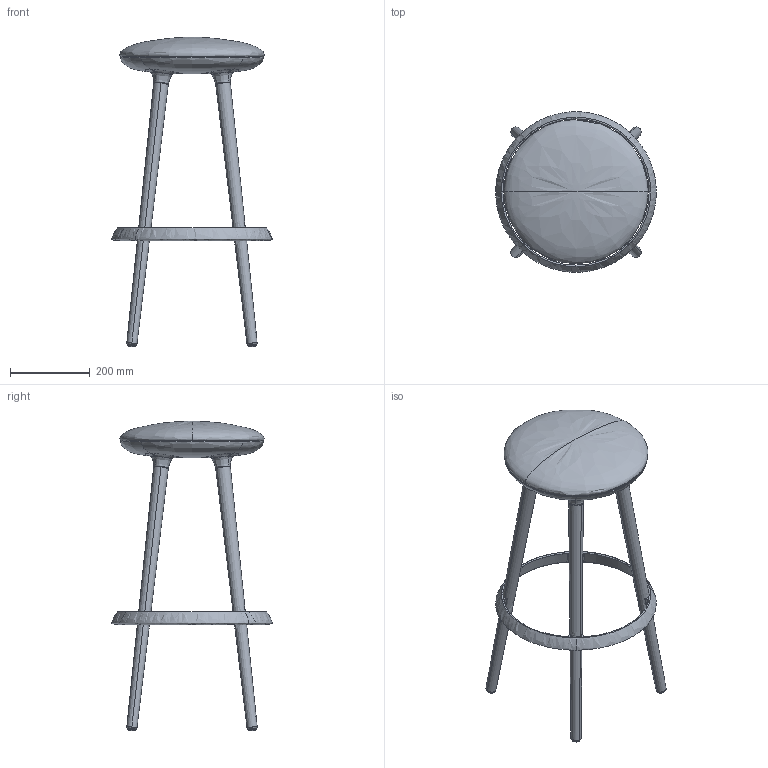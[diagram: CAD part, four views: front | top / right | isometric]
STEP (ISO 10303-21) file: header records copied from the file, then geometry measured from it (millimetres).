
FILE_DESCRIPTION (( 'STEP AP214' ), '1' );
FILE_NAME ('KIT320_Sgabello-Joy_Alto_Sempl_Render.STEP', '2022-04-27T14:59:06', ( '' ), ( '' ), 'SwSTEP 2.0', 'SolidWorks 2017', '' );
FILE_SCHEMA (( 'AUTOMOTIVE_DESIGN' ));
Length unit declared in the file: millimetre
Products named in the file (39): Vite_TCEI_M6x30_2; Sottotesta-Vite_2; Vite_TCEI_M6x30_3; Vite_TCEI_M6x30; Piedino_3; Sottotesta-Vite; Piedino_2; Vite_TCEI_M6x30_1; Sottotesta-Vite_1; Gamba_26-11-21_3; Sottotesta-Vite_3; Piedino_1; Gamba_26-11-21; Poggiapiedi; Gamba_26-11-21_2; Pelle_Tessuto_17-1-22; KIT320_Sgabello-Joy_Alto_Sempl_Render; Elemento_Portante; Piedino; Gamba_26-11-21_1
Assembly tree (19 placements, depth 2):
  Sottotesta-Vite_2
  Vite_TCEI_M6x30
  Piedino_3
  Sottotesta-Vite
  Piedino_2
Bounding box: 402.89 x 402.85 x 776.77 mm (x, y, z)
Volume: 5518014.9 mm3; surface area: 732734.9 mm2
Topology: 19 solids, 20 shells, 614 faces, 1896 edges, 1329 vertices
Faces by surface type: bspline 221, plane 140, cone 92, cylinder 90, torus 66, sphere 5
Entity records: 69858 total; most frequent: CARTESIAN_POINT 55063, ORIENTED_EDGE 3738, EDGE_CURVE 1886, DIRECTION 1693, VERTEX_POINT 1329, B_SPLINE_CURVE_WITH_KNOTS 1140, AXIS2_PLACEMENT_3D 733, EDGE_LOOP 650
